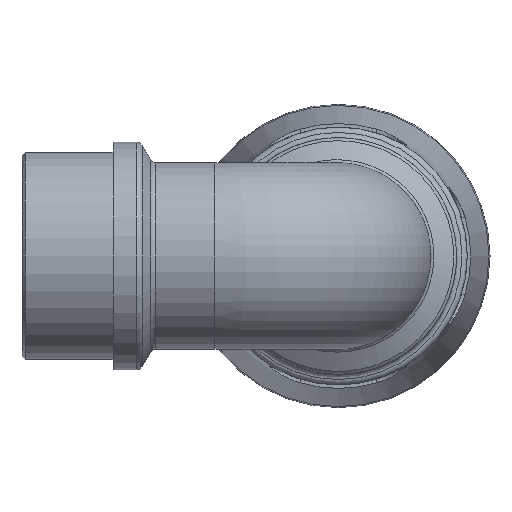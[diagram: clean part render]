
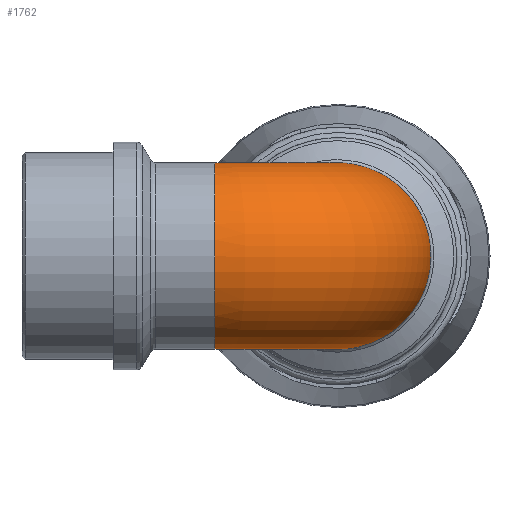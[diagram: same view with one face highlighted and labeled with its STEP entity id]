
A CAD part, left-side view. The second image highlights one B-rep face of the part: STEP entity #1762.
In plain terms, the highlighted toroidal (fillet/blend) face has major radius 28.465 mm and minor radius 21.511 mm.
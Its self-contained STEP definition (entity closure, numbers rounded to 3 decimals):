
#236=B_SPLINE_CURVE_WITH_KNOTS('',3,(#2693,#2694,#2695,#2696,#2697,#2698,
#2699,#2700,#2701,#2702,#2703,#2704,#2705,#2706,#2707,#2708,#2709,#2710),
 .UNSPECIFIED.,.T.,.F.,(4,1,1,1,1,1,1,1,1,1,1,1,1,1,1,4),(-3.142,
-2.693,-2.244,-1.795,-1.346,
-0.898,-0.449,0.15,0.449,
1.047,1.346,1.795,2.244,2.693,
2.917,3.142),.UNSPECIFIED.);
#357=FACE_BOUND('',#512,.T.);
#389=FACE_OUTER_BOUND('',#511,.T.);
#511=EDGE_LOOP('',(#1167));
#512=EDGE_LOOP('',(#1168));
#634=CIRCLE('',#1873,21.511);
#731=VERTEX_POINT('',#2580);
#733=VERTEX_POINT('',#2691);
#894=EDGE_CURVE('',#731,#731,#634,.T.);
#896=EDGE_CURVE('',#733,#733,#236,.T.);
#1167=ORIENTED_EDGE('',*,*,#896,.F.);
#1168=ORIENTED_EDGE('',*,*,#894,.T.);
#1632=TOROIDAL_SURFACE('',#1887,28.465,21.511);
#1762=ADVANCED_FACE('',(#389,#357),#1632,.T.);
#1873=AXIS2_PLACEMENT_3D('',#2581,#2091,#2092);
#1887=AXIS2_PLACEMENT_3D('',#2948,#2120,#2121);
#2091=DIRECTION('center_axis',(0.,-1.,0.));
#2092=DIRECTION('ref_axis',(-1.,0.,0.));
#2120=DIRECTION('center_axis',(0.,0.,1.));
#2121=DIRECTION('ref_axis',(1.,0.,0.));
#2580=CARTESIAN_POINT('',(21.511,28.465,0.));
#2581=CARTESIAN_POINT('Origin',(0.,28.465,0.));
#2691=CARTESIAN_POINT('',(23.855,23.259,0.));
#2693=CARTESIAN_POINT('Ctrl Pts',(23.854,23.261,0.004));
#2694=CARTESIAN_POINT('Ctrl Pts',(23.855,23.261,3.25));
#2695=CARTESIAN_POINT('Ctrl Pts',(23.927,21.152,9.679));
#2696=CARTESIAN_POINT('Ctrl Pts',(24.124,14.585,17.262));
#2697=CARTESIAN_POINT('Ctrl Pts',(24.225,5.572,21.628));
#2698=CARTESIAN_POINT('Ctrl Pts',(24.283,-4.449,21.747));
#2699=CARTESIAN_POINT('Ctrl Pts',(24.311,-13.513,17.526));
#2700=CARTESIAN_POINT('Ctrl Pts',(24.328,-20.553,8.889));
#2701=CARTESIAN_POINT('Ctrl Pts',(24.33,-22.088,-1.19));
#2702=CARTESIAN_POINT('Ctrl Pts',(24.324,-18.804,-11.675));
#2703=CARTESIAN_POINT('Ctrl Pts',(24.309,-12.578,-18.251));
#2704=CARTESIAN_POINT('Ctrl Pts',(24.276,-3.326,-21.731));
#2705=CARTESIAN_POINT('Ctrl Pts',(24.225,5.567,-21.627));
#2706=CARTESIAN_POINT('Ctrl Pts',(24.123,14.587,-17.269));
#2707=CARTESIAN_POINT('Ctrl Pts',(23.963,20.058,-10.926));
#2708=CARTESIAN_POINT('Ctrl Pts',(23.869,22.735,-4.882));
#2709=CARTESIAN_POINT('Ctrl Pts',(23.853,23.261,-1.62));
#2710=CARTESIAN_POINT('Ctrl Pts',(23.854,23.261,0.004));
#2948=CARTESIAN_POINT('Origin',(28.465,28.465,0.));
